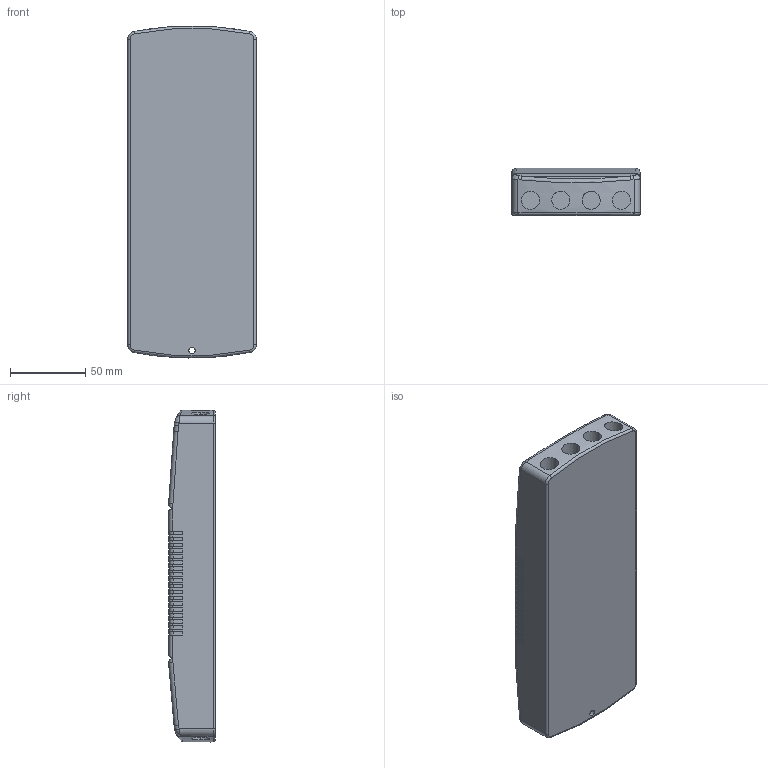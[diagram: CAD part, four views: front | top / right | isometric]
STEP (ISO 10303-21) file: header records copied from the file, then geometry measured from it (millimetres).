
FILE_DESCRIPTION((''),'2;1');
FILE_NAME('15007698_ZCI5','2013-06-12T',('erich.spiegel'),(''),'PRO/ENGINEER BY PARAMETRIC TECHNOLOGY CORPORATION, 2012420','PRO/ENGINEER BY PARAMETRIC TECHNOLOGY CORPORATION, 2012420','');
FILE_SCHEMA(('AUTOMOTIVE_DESIGN { 1 2 10303 214 0 1 1 1 }'));
Length unit declared in the file: millimetre
Products named in the file (1): 15007698_ZCI5
Bounding box: 85 x 31 x 219.99 mm (x, y, z)
Volume: 526334 mm3; surface area: 59583.7 mm2
Topology: 1 solids, 1 shells, 379 faces, 1078 edges, 706 vertices
Faces by surface type: plane 198, cylinder 150, bspline 16, torus 15
Entity records: 16831 total; most frequent: CARTESIAN_POINT 3535, ORIENTED_EDGE 2156, DIRECTION 2019, PRESENTATION_STYLE_ASSIGNMENT 1079, STYLED_ITEM 1079, CURVE_STYLE 1078, EDGE_CURVE 1078, VECTOR 715
